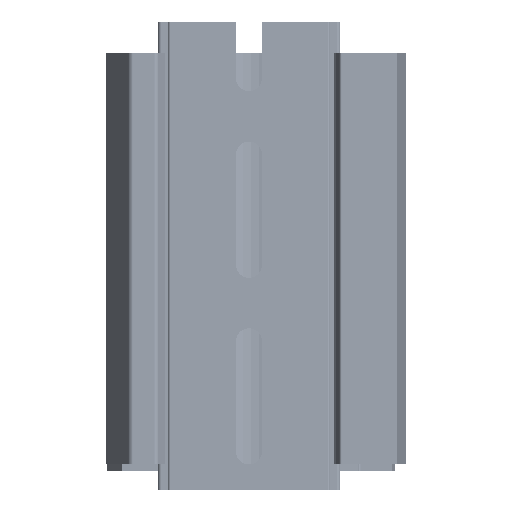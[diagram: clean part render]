
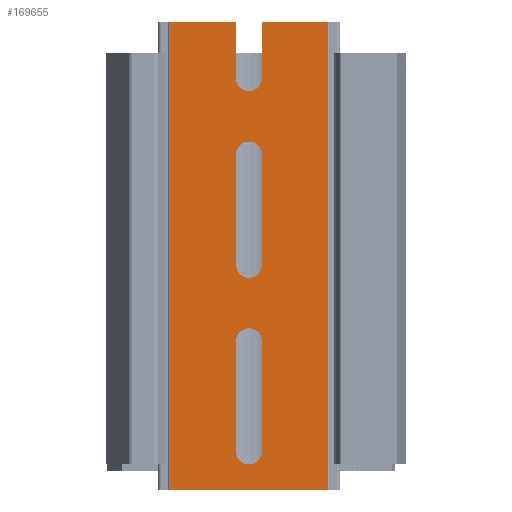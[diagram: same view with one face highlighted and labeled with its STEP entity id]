
A CAD part, front view. The second image highlights one B-rep face of the part: STEP entity #169655.
In plain terms, the highlighted planar face has unit normal (0, -1, 0).
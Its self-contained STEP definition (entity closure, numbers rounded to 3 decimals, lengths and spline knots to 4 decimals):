
#56692=CARTESIAN_POINT('',(0.689,0.,-0.0315));
#56693=DIRECTION('',(0.,-1.,0.));
#56694=DIRECTION('',(-1.,0.,0.));
#56695=AXIS2_PLACEMENT_3D('',#56692,#56693,#56694);
#56697=DIRECTION('',(1.,0.,0.));
#56698=VECTOR('',#56697,0.4961);
#56699=CARTESIAN_POINT('',(0.7874,0.,0.3937));
#56700=LINE('',#56699,#56698);
#56701=DIRECTION('',(-1.,0.,0.));
#56702=VECTOR('',#56701,1.189);
#56703=CARTESIAN_POINT('',(1.2835,0.,
-3.1496));
#56704=LINE('',#56703,#56702);
#56705=DIRECTION('',(1.,0.,0.));
#56706=VECTOR('',#56705,0.4961);
#56707=CARTESIAN_POINT('',(0.0945,0.,0.3937));
#56708=LINE('',#56707,#56706);
#56709=DIRECTION('',(0.,0.,-1.));
#56710=VECTOR('',#56709,0.4252);
#56711=CARTESIAN_POINT('',(0.5906,0.,0.3937));
#56712=LINE('',#56711,#56710);
#56713=CARTESIAN_POINT('',(0.689,0.,-1.4449));
#56714=DIRECTION('',(0.,-1.,0.));
#56715=DIRECTION('',(-1.,0.,0.));
#56716=AXIS2_PLACEMENT_3D('',#56713,#56714,#56715);
#56718=CARTESIAN_POINT('',(0.689,0.,-0.6102));
#56719=DIRECTION('',(0.,-1.,0.));
#56720=DIRECTION('',(1.,0.,0.));
#56721=AXIS2_PLACEMENT_3D('',#56718,#56719,#56720);
#56723=CARTESIAN_POINT('',(0.689,0.,-2.8583));
#56724=DIRECTION('',(0.,-1.,0.));
#56725=DIRECTION('',(-1.,0.,0.));
#56726=AXIS2_PLACEMENT_3D('',#56723,#56724,#56725);
#56728=CARTESIAN_POINT('',(0.689,0.,-2.0236));
#56729=DIRECTION('',(0.,-1.,0.));
#56730=DIRECTION('',(1.,0.,0.));
#56731=AXIS2_PLACEMENT_3D('',#56728,#56729,#56730);
#58220=DIRECTION('',(0.,0.,-1.));
#58221=VECTOR('',#58220,3.5433);
#58222=CARTESIAN_POINT('',(0.0945,0.,0.3937));
#58223=LINE('',#58222,#58221);
#58224=DIRECTION('',(0.,0.,1.));
#58225=VECTOR('',#58224,3.5433);
#58226=CARTESIAN_POINT('',(1.2835,0.,
-3.1496));
#58227=LINE('',#58226,#58225);
#58271=DIRECTION('',(0.,0.,-1.));
#58272=VECTOR('',#58271,0.4252);
#58273=CARTESIAN_POINT('',(0.7874,0.,0.3937));
#58274=LINE('',#58273,#58272);
#59753=DIRECTION('',(0.,0.,1.));
#59754=VECTOR('',#59753,0.8346);
#59755=CARTESIAN_POINT('',(0.5906,0.,-2.8583));
#59756=LINE('',#59755,#59754);
#59765=DIRECTION('',(0.,0.,-1.));
#59766=VECTOR('',#59765,0.8346);
#59767=CARTESIAN_POINT('',(0.7874,0.,-2.0236));
#59768=LINE('',#59767,#59766);
#59777=DIRECTION('',(0.,0.,1.));
#59778=VECTOR('',#59777,0.8346);
#59779=CARTESIAN_POINT('',(0.5906,0.,-1.4449));
#59780=LINE('',#59779,#59778);
#59793=DIRECTION('',(0.,0.,-1.));
#59794=VECTOR('',#59793,0.8346);
#59795=CARTESIAN_POINT('',(0.7874,0.,-0.6102));
#59796=LINE('',#59795,#59794);
#69770=CARTESIAN_POINT('',(0.0945,0.,-3.1496));
#69771=VERTEX_POINT('',#69770);
#69772=CARTESIAN_POINT('',(1.2835,0.,
-3.1496));
#69774=VERTEX_POINT('',#69772);
#69800=CARTESIAN_POINT('',(0.5906,0.,0.3937));
#69802=VERTEX_POINT('',#69800);
#69804=CARTESIAN_POINT('',(0.0945,0.,0.3937));
#69806=VERTEX_POINT('',#69804);
#69831=CARTESIAN_POINT('',(0.7874,0.,0.3937));
#69833=VERTEX_POINT('',#69831);
#69858=CARTESIAN_POINT('',(1.2835,0.,
0.3937));
#69859=VERTEX_POINT('',#69858);
#69860=CARTESIAN_POINT('',(0.5906,0.,-0.0315));
#69862=VERTEX_POINT('',#69860);
#69864=CARTESIAN_POINT('',(0.5906,0.,-2.8583));
#69865=CARTESIAN_POINT('',(0.7874,0.,-2.8583));
#69866=VERTEX_POINT('',#69864);
#69867=VERTEX_POINT('',#69865);
#69868=CARTESIAN_POINT('',(0.7874,0.,-2.0236));
#69869=VERTEX_POINT('',#69868);
#69870=CARTESIAN_POINT('',(0.5906,0.,-2.0236));
#69871=VERTEX_POINT('',#69870);
#69872=CARTESIAN_POINT('',(0.5906,0.,-1.4449));
#69873=CARTESIAN_POINT('',(0.7874,0.,-1.4449));
#69874=VERTEX_POINT('',#69872);
#69875=VERTEX_POINT('',#69873);
#69876=CARTESIAN_POINT('',(0.7874,0.,-0.6102));
#69877=VERTEX_POINT('',#69876);
#69878=CARTESIAN_POINT('',(0.5906,0.,-0.6102));
#69879=VERTEX_POINT('',#69878);
#69880=CARTESIAN_POINT('',(0.7874,0.,-0.0315));
#69881=VERTEX_POINT('',#69880);
#169614=CARTESIAN_POINT('',(0.689,0.,-1.378));
#169615=DIRECTION('',(0.,1.,0.));
#169616=DIRECTION('',(1.,0.,0.));
#169617=AXIS2_PLACEMENT_3D('',#169614,#169615,#169616);
#169618=PLANE('',#169617);
#169620=ORIENTED_EDGE('',*,*,#169619,.T.);
#169622=ORIENTED_EDGE('',*,*,#169621,.F.);
#169624=ORIENTED_EDGE('',*,*,#169623,.T.);
#169626=ORIENTED_EDGE('',*,*,#169625,.F.);
#169628=ORIENTED_EDGE('',*,*,#169627,.T.);
#169630=ORIENTED_EDGE('',*,*,#169629,.F.);
#169631=ORIENTED_EDGE('',*,*,#169570,.T.);
#169632=ORIENTED_EDGE('',*,*,#169604,.T.);
#169633=EDGE_LOOP('',(#169620,#169622,#169624,#169626,#169628,#169630,#169631,
#169632));
#169634=FACE_OUTER_BOUND('',#169633,.F.);
#169636=ORIENTED_EDGE('',*,*,#169635,.T.);
#169638=ORIENTED_EDGE('',*,*,#169637,.F.);
#169640=ORIENTED_EDGE('',*,*,#169639,.T.);
#169642=ORIENTED_EDGE('',*,*,#169641,.F.);
#169643=EDGE_LOOP('',(#169636,#169638,#169640,#169642));
#169644=FACE_BOUND('',#169643,.F.);
#169646=ORIENTED_EDGE('',*,*,#169645,.T.);
#169648=ORIENTED_EDGE('',*,*,#169647,.F.);
#169650=ORIENTED_EDGE('',*,*,#169649,.T.);
#169652=ORIENTED_EDGE('',*,*,#169651,.F.);
#169653=EDGE_LOOP('',(#169646,#169648,#169650,#169652));
#169654=FACE_BOUND('',#169653,.F.);
#169655=ADVANCED_FACE('',(#169634,#169644,#169654),#169618,.F.);
#56696=CIRCLE('',#56695,0.0984);
#56717=CIRCLE('',#56716,0.0984);
#56722=CIRCLE('',#56721,0.0984);
#56727=CIRCLE('',#56726,0.0984);
#56732=CIRCLE('',#56731,0.0984);
#169570=EDGE_CURVE('',#69806,#69802,#56708,.T.);
#169604=EDGE_CURVE('',#69802,#69862,#56712,.T.);
#169619=EDGE_CURVE('',#69862,#69881,#56696,.T.);
#169621=EDGE_CURVE('',#69833,#69881,#58274,.T.);
#169623=EDGE_CURVE('',#69833,#69859,#56700,.T.);
#169625=EDGE_CURVE('',#69774,#69859,#58227,.T.);
#169627=EDGE_CURVE('',#69774,#69771,#56704,.T.);
#169629=EDGE_CURVE('',#69806,#69771,#58223,.T.);
#169635=EDGE_CURVE('',#69874,#69875,#56717,.T.);
#169637=EDGE_CURVE('',#69877,#69875,#59796,.T.);
#169639=EDGE_CURVE('',#69877,#69879,#56722,.T.);
#169641=EDGE_CURVE('',#69874,#69879,#59780,.T.);
#169645=EDGE_CURVE('',#69866,#69867,#56727,.T.);
#169647=EDGE_CURVE('',#69869,#69867,#59768,.T.);
#169649=EDGE_CURVE('',#69869,#69871,#56732,.T.);
#169651=EDGE_CURVE('',#69866,#69871,#59756,.T.);
